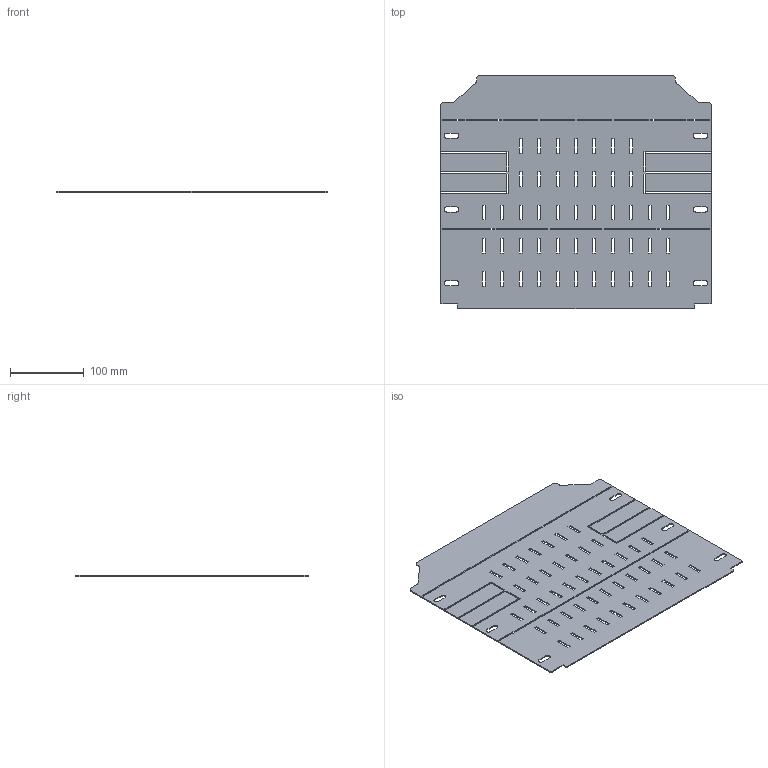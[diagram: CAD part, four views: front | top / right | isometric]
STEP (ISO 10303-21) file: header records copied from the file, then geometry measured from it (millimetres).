
FILE_DESCRIPTION(('STEP AP203'), '1');
FILE_NAME('Îãðàæäåíèå âåðõíåå ÔÁ Ø400õÃ400 ìì OptiBox M 419179 ÊÝÀÇ_2', '', ('UNSPECIFIED'), ('UNSPECIFIED'), 'C3D Converter', 'C3D Toolkit', '');
FILE_SCHEMA(('CONFIG_CONTROL_DESIGN'));
Length unit declared in the file: millimetre
Bounding box: 367 x 316.75 x 1.5 mm (x, y, z)
Volume: 158948.5 mm3; surface area: 221822.9 mm2
Topology: 1 solids, 1 shells, 332 faces, 990 edges, 660 vertices
Faces by surface type: plane 308, cylinder 24
Entity records: 11306 total; most frequent: CARTESIAN_POINT 1983, ORIENTED_EDGE 1980, DIRECTION 1704, EDGE_CURVE 990, LINE 942, VECTOR 942, VERTEX_POINT 660, FACE_BOUND 484
